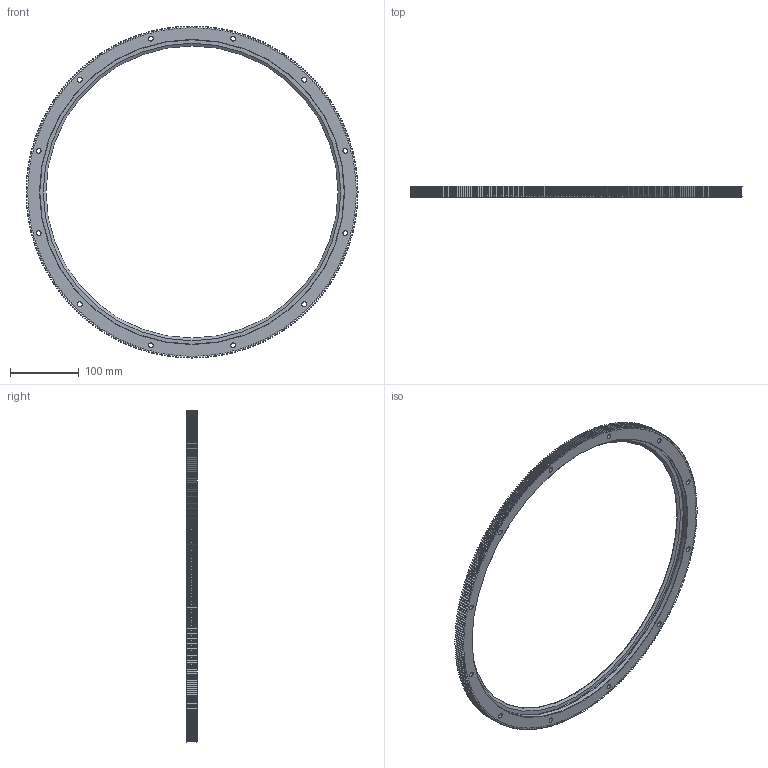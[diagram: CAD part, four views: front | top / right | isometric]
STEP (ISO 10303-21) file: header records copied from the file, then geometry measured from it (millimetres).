
FILE_DESCRIPTION( ( 'STEP AP203' ), '1' );
FILE_NAME( 'p:/temp/worker_9/temp/exporttempdir_944_454_x9ZHl/format_0/RIM 482 R360 P.stp', '2021-09-21T06:35:39', ( 'License CC BY-ND 4.0' ), ( 'CADENAS' ), ' ', 'PARTsolutions', ' ' );
FILE_SCHEMA( ( 'CONFIG_CONTROL_DESIGN' ) );
Length unit declared in the file: millimetre
Products named in the file (1): _RIM 482 R360 P
Bounding box: 482.5 x 15.5 x 482.5 mm (x, y, z)
Volume: 465208.8 mm3; surface area: 146535.1 mm2
Topology: 1 solids, 1 shells, 2362 faces, 7023 edges, 4677 vertices
Faces by surface type: plane 1552, cylinder 410, cone 399, torus 1
Full cylindrical faces by diameter (mm): 6.8 x12, 11 x12, 442.5 x1, 443.7 x1
Entity records: 79322 total; most frequent: CARTESIAN_POINT 16325, ORIENTED_EDGE 13962, DIRECTION 12160, EDGE_CURVE 6981, LINE 4992, VECTOR 4992, VERTEX_POINT 4677, AXIS2_PLACEMENT_3D 3584
